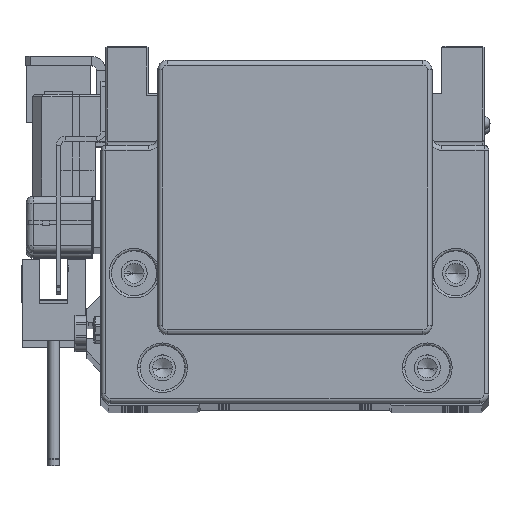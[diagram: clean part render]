
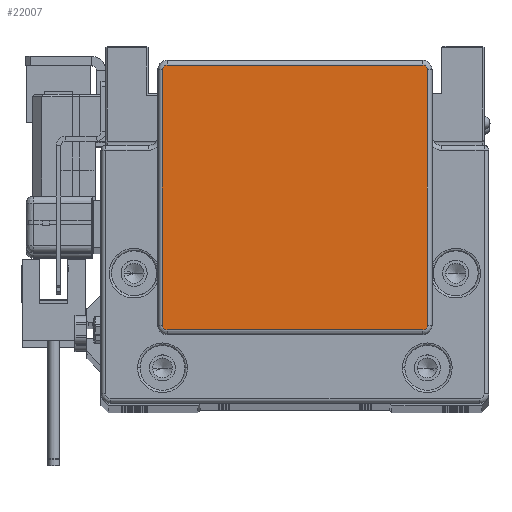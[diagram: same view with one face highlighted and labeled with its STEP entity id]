
A CAD part, top view. The second image highlights one B-rep face of the part: STEP entity #22007.
In plain terms, the highlighted planar face has unit normal (0, 0, 1).
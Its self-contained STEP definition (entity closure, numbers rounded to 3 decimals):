
#125 = VERTEX_POINT ( 'NONE', #43597 ) ;
#138 = DIRECTION ( 'NONE',  ( 1., 0., 0. ) ) ;
#849 = ORIENTED_EDGE ( 'NONE', *, *, #6331, .T. ) ;
#1249 = DIRECTION ( 'NONE',  ( 1., 0., 0. ) ) ;
#1519 = CARTESIAN_POINT ( 'NONE',  ( 27., 34.25, 17. ) ) ;
#1548 = VERTEX_POINT ( 'NONE', #9111 ) ;
#2579 = CARTESIAN_POINT ( 'NONE',  ( -28., -19.75, 17. ) ) ;
#3361 = DIRECTION ( 'NONE',  ( 0., 0., 1. ) ) ;
#3868 = CIRCLE ( 'NONE', #36595, 1. ) ;
#6331 = EDGE_CURVE ( 'NONE', #34856, #39526, #47990, .T. ) ;
#6620 = LINE ( 'NONE', #10441, #16418 ) ;
#6657 = CIRCLE ( 'NONE', #18762, 1. ) ;
#7299 = ORIENTED_EDGE ( 'NONE', *, *, #24171, .T. ) ;
#7777 = EDGE_CURVE ( 'NONE', #51300, #30219, #10344, .T. ) ;
#8240 = EDGE_LOOP ( 'NONE', ( #36185, #55193, #849, #7299, #23375, #13362, #34268, #23592 ) ) ;
#8529 = CARTESIAN_POINT ( 'NONE',  ( 28., 34.25, 17. ) ) ;
#9111 = CARTESIAN_POINT ( 'NONE',  ( -27., -20.75, 17. ) ) ;
#9966 = VECTOR ( 'NONE', #40246, 1000. ) ;
#10344 = LINE ( 'NONE', #35858, #9966 ) ;
#10441 = CARTESIAN_POINT ( 'NONE',  ( 28., 34.25, 17. ) ) ;
#12427 = CARTESIAN_POINT ( 'NONE',  ( -27., 34.25, 17. ) ) ;
#13362 = ORIENTED_EDGE ( 'NONE', *, *, #42091, .T. ) ;
#14046 = CARTESIAN_POINT ( 'NONE',  ( -28., 34.25, 17. ) ) ;
#14127 = AXIS2_PLACEMENT_3D ( 'NONE', #16393, #42492, #20213 ) ;
#14800 = DIRECTION ( 'NONE',  ( 1., 0., 0. ) ) ;
#15936 = CIRCLE ( 'NONE', #14127, 1. ) ;
#16393 = CARTESIAN_POINT ( 'NONE',  ( 27., -19.75, 17. ) ) ;
#16418 = VECTOR ( 'NONE', #24473, 1000. ) ;
#18646 = DIRECTION ( 'NONE',  ( 0., 0., 1. ) ) ;
#18762 = AXIS2_PLACEMENT_3D ( 'NONE', #37384, #18646, #55236 ) ;
#20213 = DIRECTION ( 'NONE',  ( 1., 0., 0. ) ) ;
#22007 = ADVANCED_FACE ( 'NONE', ( #41748 ), #54639, .T. ) ;
#22467 = CARTESIAN_POINT ( 'NONE',  ( 27., -20.75, 17. ) ) ;
#23375 = ORIENTED_EDGE ( 'NONE', *, *, #55283, .T. ) ;
#23592 = ORIENTED_EDGE ( 'NONE', *, *, #24924, .T. ) ;
#24171 = EDGE_CURVE ( 'NONE', #39526, #1548, #6657, .T. ) ;
#24473 = DIRECTION ( 'NONE',  ( 0., 1., 0. ) ) ;
#24924 = EDGE_CURVE ( 'NONE', #43700, #51300, #3868, .T. ) ;
#25490 = LINE ( 'NONE', #22467, #50536 ) ;
#27747 = CARTESIAN_POINT ( 'NONE',  ( 27., 35.25, 17. ) ) ;
#30219 = VERTEX_POINT ( 'NONE', #36646 ) ;
#31531 = CARTESIAN_POINT ( 'NONE',  ( 27., -20.75, 17. ) ) ;
#32376 = VERTEX_POINT ( 'NONE', #31531 ) ;
#33678 = AXIS2_PLACEMENT_3D ( 'NONE', #12427, #3361, #138 ) ;
#34268 = ORIENTED_EDGE ( 'NONE', *, *, #48914, .T. ) ;
#34856 = VERTEX_POINT ( 'NONE', #14046 ) ;
#35858 = CARTESIAN_POINT ( 'NONE',  ( -27., 35.25, 17. ) ) ;
#36185 = ORIENTED_EDGE ( 'NONE', *, *, #7777, .T. ) ;
#36595 = AXIS2_PLACEMENT_3D ( 'NONE', #1519, #46055, #1249 ) ;
#36646 = CARTESIAN_POINT ( 'NONE',  ( -27., 35.25, 17. ) ) ;
#37384 = CARTESIAN_POINT ( 'NONE',  ( -27., -19.75, 17. ) ) ;
#39169 = DIRECTION ( 'NONE',  ( 0., -1., 0. ) ) ;
#39341 = AXIS2_PLACEMENT_3D ( 'NONE', #50238, #54916, #14800 ) ;
#39526 = VERTEX_POINT ( 'NONE', #2579 ) ;
#40008 = EDGE_CURVE ( 'NONE', #30219, #34856, #47697, .T. ) ;
#40246 = DIRECTION ( 'NONE',  ( -1., 0., 0. ) ) ;
#41748 = FACE_OUTER_BOUND ( 'NONE', #8240, .T. ) ;
#42091 = EDGE_CURVE ( 'NONE', #32376, #125, #15936, .T. ) ;
#42492 = DIRECTION ( 'NONE',  ( 0., 0., 1. ) ) ;
#43597 = CARTESIAN_POINT ( 'NONE',  ( 28., -19.75, 17. ) ) ;
#43700 = VERTEX_POINT ( 'NONE', #8529 ) ;
#46055 = DIRECTION ( 'NONE',  ( 0., 0., 1. ) ) ;
#47697 = CIRCLE ( 'NONE', #33678, 1. ) ;
#47752 = DIRECTION ( 'NONE',  ( 1., 0., 0. ) ) ;
#47990 = LINE ( 'NONE', #51783, #51577 ) ;
#48914 = EDGE_CURVE ( 'NONE', #125, #43700, #6620, .T. ) ;
#50238 = CARTESIAN_POINT ( 'NONE',  ( -27., -19.75, 17. ) ) ;
#50536 = VECTOR ( 'NONE', #47752, 1000. ) ;
#51300 = VERTEX_POINT ( 'NONE', #27747 ) ;
#51577 = VECTOR ( 'NONE', #39169, 1000. ) ;
#51783 = CARTESIAN_POINT ( 'NONE',  ( -28., -19.75, 17. ) ) ;
#54639 = PLANE ( 'NONE',  #39341 ) ;
#54916 = DIRECTION ( 'NONE',  ( 0., 0., 1. ) ) ;
#55193 = ORIENTED_EDGE ( 'NONE', *, *, #40008, .T. ) ;
#55236 = DIRECTION ( 'NONE',  ( 1., 0., 0. ) ) ;
#55283 = EDGE_CURVE ( 'NONE', #1548, #32376, #25490, .T. ) ;
